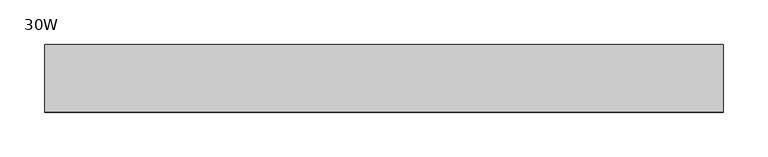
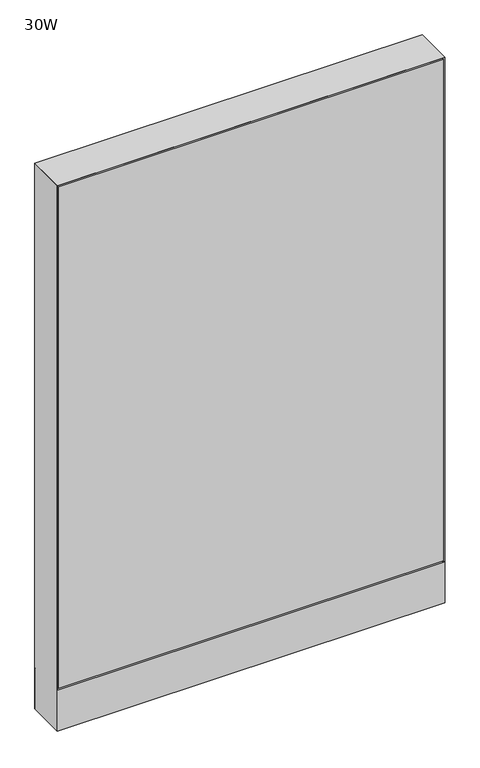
"""IFC4 building model written with IfcOpenShell, lengths in millimetres: furniture geometry, Steelcase - Montage - Frame - 45H - Enhanced Monolithic - Base Cavity : 30W."""

from ifc_helpers import new_model, si_unit, point, frame, frame_2d, origin, origin_with_axes, place, context, project, spatial, polyline, circle_curve, trimmed, segment, composite_curve, outline, extrude, faceted_brep, source, transform, mapped, element, save


def furniture_30w_7d468a4d(model_context):
    return source(origin(), model_context, "Body", "SolidModel", [
        extrude(outline(polyline([(3.175, 31.7500194), (3.175, 38.1000194), (758.825, 38.1000194), (758.825, 31.7500194), (3.175, 31.7500194)])), frame((0.0, 0.0, 92.075), z_axis=(0.0, 0.0, 1.0), x_axis=(1.0, 0.0, 0.0)), (0.0, 0.0, 1.0), 1041.4),
        extrude(outline(polyline([(3.175, -31.7500194), (758.825, -31.7500194), (758.825, -38.1000194), (3.175, -38.1000194), (3.175, -31.7500194)])), frame((0.0, 0.0, 92.075), z_axis=(0.0, 0.0, 1.0), x_axis=(1.0, 0.0, 0.0)), (0.0, 0.0, 1.0), 1041.4),
        extrude(outline(polyline([(6.350003, -31.7499985), (755.649997, -31.7499985), (762.0, -38.1000015), (0.0, -38.1000015), (6.350003, -31.7499985)])), frame((0.0, 0.0, 4.064), z_axis=(0.0, 0.0, 1.0), x_axis=(1.0, 0.0, 0.0)), (0.0, 0.0, 1.0), 84.835997),
        extrude(outline(polyline([(6.3500002, 31.7500017), (0.0, 38.1000015), (762.0, 38.1000015), (755.6500002, 31.7500017), (6.3500002, 31.7500017)])), frame((0.0, 0.0, 4.064), z_axis=(0.0, 0.0, 1.0), x_axis=(1.0, 0.0, 0.0)), (0.0, 0.0, 1.0), 84.835997),
        faceted_brep([(762.0, -38.1000015, 1136.65), (0.0, -38.1000015, 1136.65), (6.3500484, -31.749953, 1130.2999516), (755.6499516, -31.749953, 1130.2999516), (6.3500484, 31.749953, 1130.2999516), (755.6499516, 31.749953, 1130.2999516), (0.0, 38.1000015, 1136.65), (762.0, 38.1000015, 1136.65)], [[[0, 1, 2, 3]], [[3, 2, 4, 5]], [[6, 7, 5, 4]], [[1, 0, 7, 6]], [[2, 1, 6, 4]], [[0, 3, 5, 7]]]),
        extrude(outline(composite_curve([segment(trimmed(circle_curve(frame_2d((44.45, 0.0)), 15.24), [point((29.21, 0.0))], [point((59.69, 0.0))], False, "CARTESIAN"), True, "CONTINUOUS"), segment(trimmed(circle_curve(frame_2d((44.45, 0.0)), 15.24), [point((59.69, 0.0))], [point((29.21, 0.0))], False, "CARTESIAN"), True, "CONTINUOUS")], self_intersect=False)), origin_with_axes(), (0.0, 0.0, 1.0), 4.064),
        extrude(outline(composite_curve([segment(trimmed(circle_curve(frame_2d((717.55, 0.0)), 15.24), [point((702.31, 0.0))], [point((732.79, 0.0))], False, "CARTESIAN"), True, "CONTINUOUS"), segment(trimmed(circle_curve(frame_2d((717.55, 0.0)), 15.24), [point((732.79, 0.0))], [point((702.31, 0.0))], False, "CARTESIAN"), True, "CONTINUOUS")], self_intersect=False)), origin_with_axes(), (0.0, 0.0, 1.0), 4.064),
        faceted_brep([(762.0, -38.1000106, 4.064), (762.0, 38.1000015, 4.064), (762.0, 38.1000015, 1136.65), (762.0, -38.1000106, 1136.6499637), (0.0, 38.1000015, 4.064), (0.0, -38.1000015, 4.064), (0.0, -38.1000015, 1136.65), (0.0, 38.1000015, 1136.65), (755.6499879, 31.7500017, 600.202), (6.35, 31.7500017, 600.202), (6.3499998, 31.7500017, 612.902), (755.6499879, 31.7500017, 612.902), (6.35, -31.7499985, 612.902), (755.6499879, -31.7499985, 612.902), (6.350003, -31.7499985, 600.202), (755.6499879, -31.7499985, 600.202), (6.35, 31.7500015, 4.064), (6.35, -31.7500015, 4.064), (755.6499879, 31.7499894, 4.064), (755.6499879, -31.7499985, 4.064), (6.35, 31.7500015, 1130.3), (6.35, -31.7500015, 1130.3), (755.6499879, -31.7499985, 1130.2999516), (755.6499879, 31.7499895, 1130.2999516)], [[[0, 1, 2, 3]], [[4, 5, 6, 7]], [[8, 9, 10, 11]], [[11, 10, 12, 13]], [[13, 12, 14, 15]], [[9, 8, 15, 14]], [[16, 17, 5, 4]], [[18, 1, 0, 19]], [[16, 4, 7, 20, 10, 9]], [[5, 17, 14, 12, 21, 6]], [[12, 10, 20, 21]], [[17, 16, 9, 14]], [[11, 13, 22, 23]], [[18, 19, 15, 8]], [[19, 0, 3, 22, 13, 15]], [[1, 18, 8, 11, 23, 2]], [[7, 6, 21, 20]], [[3, 2, 23, 22]]]),
    ])


if __name__ == "__main__":
    model = new_model("IFC4")
    model_context = context("Model", 3, world=origin())
    ifc_project = project(units=[si_unit("LENGTHUNIT", "METRE", prefix="MILLI")], contexts=[model_context])
    site = spatial("IfcSite", under=ifc_project)
    building = spatial("IfcBuilding", under=site)
    placement = place(None, origin())
    furniture_30w_shape = furniture_30w_7d468a4d(model_context)
    element("IfcFurniture", 1, ObjectType="Steelcase - Montage - Frame - 45H - Enhanced Monolithic - Base Cavity : 30W", at=placement, inside=building, context=model_context, shape_type="MappedRepresentation", body=[
        mapped(furniture_30w_shape, transform((0.0, 0.0, 0.0), x_axis=(1.0, 0.0, 0.0), y_axis=(0.0, 1.0, 0.0), z_axis=(0.0, 0.0, 1.0))),
    ])
    save(model, "model.ifc")
